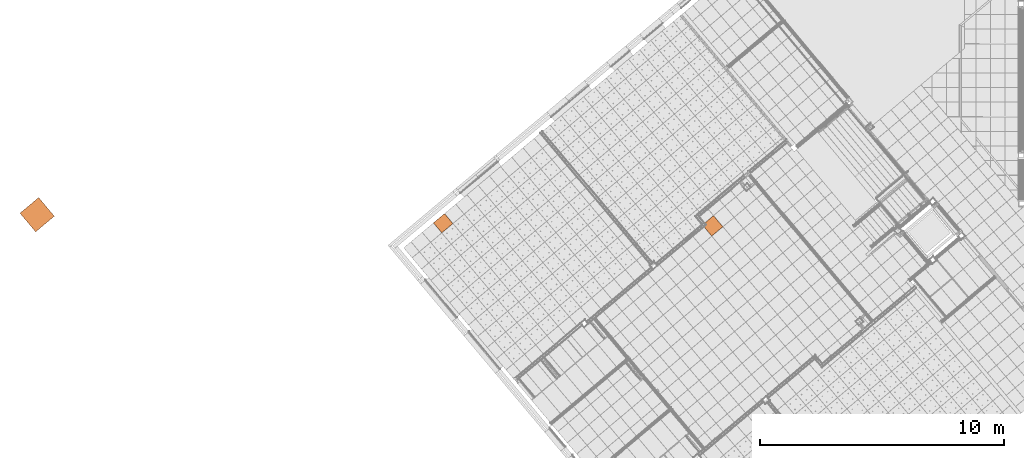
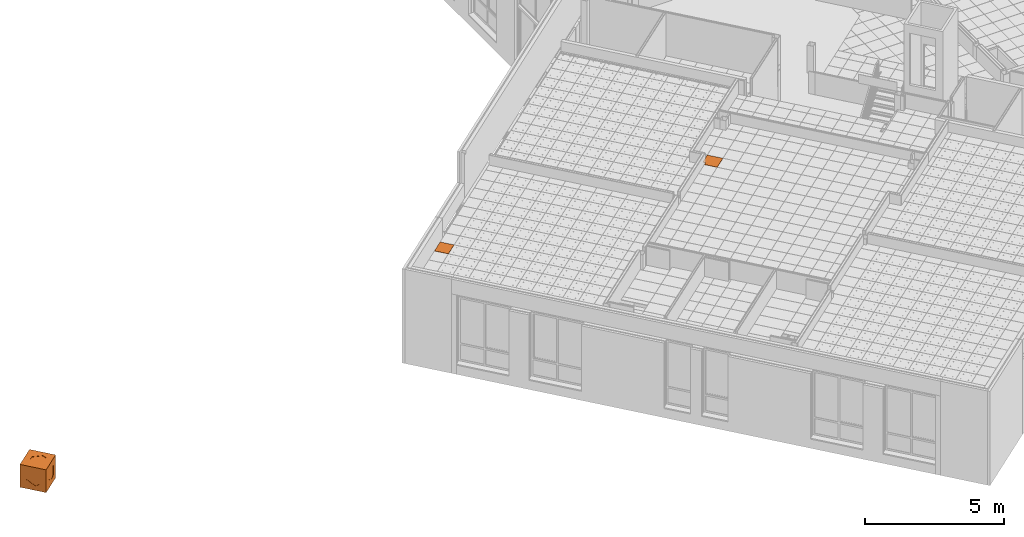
# One storey, part 313 of 338: 3 proxies, 2 elements without a shape of their own.
"""IFC2X3 building model written with IfcOpenShell, lengths in millimetres."""

from ifc_helpers import new_model, entity, si_unit, converted_unit, derived_unit, money_unit, direction, frame, origin_with_axes, place, context, subcontext, project, spatial, faceted_brep, material, type_object, element, aggregate, save


model = new_model("IFC2X3")

# Units and contexts
model_context = context("Model", 3, precision=0.01, world=origin_with_axes(), true_north=direction((0.0, 1.0)))
plan_context = context("Plan", 3, precision=0.01, world=origin_with_axes(), true_north=direction((0.0, 1.0)))
body_context = subcontext(model_context, "Body", "Model", "MODEL_VIEW")
ifc_project = project(units=[si_unit("LENGTHUNIT", "METRE", prefix="MILLI"), si_unit("AREAUNIT", "SQUARE_METRE"), si_unit("VOLUMEUNIT", "CUBIC_METRE"), converted_unit("PLANEANGLEUNIT", "DEGREE", entity("IfcPlaneAngleMeasure", 0.0174532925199), si_unit("PLANEANGLEUNIT", "RADIAN"), dimensions=[0, 0, 0, 0, 0, 0, 0]), money_unit("EUR"), converted_unit("TIMEUNIT", "Year", entity("IfcTimeMeasure", 31556926.0), si_unit("TIMEUNIT", "SECOND"), dimensions=[0, 0, 1, 0, 0, 0, 0]), si_unit("MASSUNIT", "GRAM", prefix="KILO"), si_unit("THERMODYNAMICTEMPERATUREUNIT", "DEGREE_CELSIUS"), si_unit("LUMINOUSINTENSITYUNIT", "LUMEN"), si_unit("ENERGYUNIT", "JOULE", prefix="MEGA"), derived_unit("THERMALCONDUCTANCEUNIT", [(si_unit("POWERUNIT", "WATT"), 1), (si_unit("LENGTHUNIT", "METRE"), -1), (si_unit("THERMODYNAMICTEMPERATUREUNIT", "KELVIN"), -1)]), derived_unit("SPECIFICHEATCAPACITYUNIT", [(si_unit("ENERGYUNIT", "JOULE"), 1), (si_unit("MASSUNIT", "GRAM", prefix="KILO"), -1), (si_unit("THERMODYNAMICTEMPERATUREUNIT", "KELVIN"), -1)]), derived_unit("MASSDENSITYUNIT", [(si_unit("MASSUNIT", "GRAM", prefix="KILO"), 1), (si_unit("VOLUMEUNIT", "CUBIC_METRE"), -1)])], contexts=[model_context, plan_context])

# Site, building, storey
site_placement = place(None, origin_with_axes())
site = spatial("IfcSite", under=ifc_project, at=site_placement, Name="Fortuinstraat Woensdrecht", CompositionType="ELEMENT")
building_placement = place(site_placement, origin_with_axes())
building = spatial("IfcBuilding", under=site, at=building_placement, Name="IKC Fortuna", CompositionType="ELEMENT")
storey_placement = place(building_placement, origin_with_axes())
storey = spatial("IfcBuildingStorey", under=building, at=storey_placement, Name="00 begane grond", CompositionType="ELEMENT", Elevation=0.0)

# Covering, proxy
covering_type = type_object("IfcCoveringType", Name="Curtain Wall Type", PredefinedType="CEILING")
covering_1_placement = place(storey_placement, frame((17937.1227498, -4186.27868692, 4660.0), z_axis=(0.0, 0.0, 1.0), x_axis=(1.0, 0.0, 0.0)))
covering_1 = element("IfcCovering", 1, at=covering_1_placement, inside=storey, type_object=covering_type, Name="45_Plafondafwerking_P02", PredefinedType="CEILING")
ifc_material_1 = material(Name="Gipsplaat")
building_element_proxy_type_1 = type_object("IfcBuildingElementProxyType", Name="Distinct Panel 471 x 105 x 20", PredefinedType="NOTDEFINED")
proxy_1_placement = place(covering_1_placement, frame((-5083.05934515, 5035.77442632, 0.0), z_axis=(0.0, 0.0, 1.0), x_axis=(1.0, 0.0, 0.0)))
proxy_1 = element("IfcBuildingElementProxy", 2, at=proxy_1_placement, type_object=building_element_proxy_type_1, material=ifc_material_1, Name="__Panel-D", context=body_context, shape_type="Brep", body=[
    faceted_brep([(122.107004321, 405.848986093, -10.0), (-234.672339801, 106.47543614, -10.0), (-234.672339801, 106.47543614, 9.99999999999), (122.107004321, 405.848986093, 9.99999999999), (504.565740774, -49.9473571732, -10.0), (48.7693975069, -432.406093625, -10.0), (-266.371359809, -56.8361631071, -10.0), (-167.35427266, 26.2489228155, -10.0), (-167.35427266, 26.2489228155, 9.99999999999), (-266.371359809, -56.8361631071, 9.99999999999), (48.7693975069, -432.406093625, 9.99999999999), (504.565740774, -49.9473571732, 9.99999999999)], [[[0, 1, 2, 3]], [[0, 4, 5, 6, 7, 1]], [[1, 7, 8, 2]], [[3, 2, 8, 9, 10, 11]], [[4, 0, 3, 11]], [[5, 4, 11, 10]], [[6, 5, 10, 9]], [[7, 6, 9, 8]]]),
])
aggregate(covering_1, [proxy_1])

covering_2_placement = place(storey_placement, frame((9775.85169731, -1002.28242867, 4660.0), z_axis=(0.0, 0.0, 1.0), x_axis=(1.0, 0.0, 0.0)))
covering_2 = element("IfcCovering", 3, at=covering_2_placement, inside=storey, type_object=covering_type, Name="45_Plafondafwerking_P01", PredefinedType="CEILING")
building_element_proxy_type_2 = type_object("IfcBuildingElementProxyType", Name="600 x 538 x 20", PredefinedType="NOTDEFINED")
proxy_2_placement = place(covering_2_placement, frame((-7899.3541505, 1946.60672487, 1.7674750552e-10), z_axis=(0.0, 0.0, 1.0), x_axis=(1.0, 0.0, 0.0)))
proxy_2 = element("IfcBuildingElementProxy", 4, at=proxy_2_placement, type_object=building_element_proxy_type_2, material=ifc_material_1, Name="__600x612 Rockfon Krios", context=body_context, shape_type="Brep", body=[
    faceted_brep([(56.7267099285, 395.223468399, -10.0), (-399.069623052, 12.7647308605, -10.0), (-399.069623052, 12.7647308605, 9.99999999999), (56.7267099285, 395.223468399, 9.99999999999), (399.069633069, -12.7647186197, -10.0), (-56.7267238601, -395.223468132, -10.0), (-56.7267238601, -395.223468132, 9.99999999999), (399.069633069, -12.7647186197, 9.99999999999)], [[[0, 1, 2, 3]], [[0, 4, 5, 1]], [[1, 5, 6, 2]], [[3, 2, 6, 7]], [[4, 0, 3, 7]], [[5, 4, 7, 6]]]),
])
aggregate(covering_2, [proxy_2])

# Proxy
ifc_material_2 = material(Name="ALG - BUITENAFWERKING")
building_element_proxy_type_3 = type_object("IfcBuildingElementProxyType", Name="Dankers Slimmer Bouwen Kubus", PredefinedType="NOTDEFINED")
proxy_3_placement = place(storey_placement, frame((-15497.1525809, 1355.82516776, 0.0), z_axis=(0.0, 0.0, 1.0), x_axis=(0.642787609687, -0.766044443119, 0.0)))
element("IfcBuildingElementProxy", 5, at=proxy_3_placement, inside=storey, type_object=building_element_proxy_type_3, material=ifc_material_2, Name="0_Building Element Proxy_nulpunt", context=body_context, shape_type="Brep", body=[
    faceted_brep([(585.710161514, 199.5, 980.0), (585.710161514, 399.5, 980.0), (758.915242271, 499.5, 980.0), (758.915242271, 299.5, 980.0), (585.710161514, 199.5, 990.0), (585.710161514, 399.5, 990.0), (758.915242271, 499.5, 990.0), (758.915242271, 299.5, 990.0)], [[[0, 1, 2, 3]], [[1, 0, 4, 5]], [[5, 6, 2, 1]], [[7, 3, 2, 6]], [[4, 0, 3, 7]], [[5, 4, 7, 6]]]),
    faceted_brep([(412.505080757, 299.5, 985.0), (412.505080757, 499.5, 985.0), (585.710161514, 399.5, 985.0), (412.505080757, 299.5, 990.0), (412.505080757, 499.5, 990.0), (585.710161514, 399.5, 990.0)], [[[0, 1, 2]], [[1, 0, 3, 4]], [[1, 4, 5, 2]], [[3, 0, 2, 5]], [[4, 3, 5]]]),
    faceted_brep([(0.0, 0.0, 0.0), (0.0, 0.0, 1000.0), (0.0, 1000.0, 1000.0), (0.0, 1000.0, 0.0), (0.0, 241.035109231, 699.5), (0.0, 241.035109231, 299.5), (0.0, 414.240189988, 199.5), (0.0, 760.650351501, 399.5), (0.0, 760.650351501, 599.5), (0.0, 414.240189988, 799.5), (1000.0, 0.0, 0.0), (1000.0, 0.0, 1000.0), (239.3, 0.0, 399.5), (239.3, 0.0, 599.5), (585.710161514, 0.0, 799.5), (758.915242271, 0.0, 699.5), (758.915242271, 0.0, 299.5), (585.710161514, 0.0, 199.5), (1000.0, 1000.0, 1000.0), (239.3, 399.5, 1000.0), (239.3, 599.5, 1000.0), (585.710161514, 799.5, 1000.0), (758.915242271, 699.5, 1000.0), (758.915242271, 299.5, 1000.0), (585.710161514, 199.5, 1000.0), (1000.0, 1000.0, 0.0), (241.084757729, 1000.0, 299.5), (414.289838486, 1000.0, 199.5), (760.7, 1000.0, 399.5), (760.7, 1000.0, 599.5), (414.289838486, 1000.0, 799.5), (241.084757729, 1000.0, 699.5), (20.0, 241.035109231, 299.5), (20.0, 241.035109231, 699.5), (20.0, 414.240189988, 199.5), (20.0, 760.650351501, 399.5), (20.0, 760.650351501, 599.5), (20.0, 414.240189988, 799.5), (1000.0, 585.710161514, 199.5), (1000.0, 239.3, 399.5), (1000.0, 239.3, 599.5), (1000.0, 585.710161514, 799.5), (1000.0, 758.915242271, 699.5), (1000.0, 758.915242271, 299.5), (239.3, 20.0, 399.5), (239.3, 20.0, 599.5), (584.42886338, 20.0, 798.760242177), (758.915242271, 20.0, 698.020484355), (758.915242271, 20.0, 299.5), (585.710161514, 20.0, 199.5), (239.3, 399.5, 980.0), (239.3, 599.5, 980.0), (585.710161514, 799.5, 980.0), (758.915242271, 699.5, 980.0), (758.915242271, 299.5, 980.0), (585.710161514, 199.5, 980.0), (241.084757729, 980.0, 299.5), (414.289838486, 980.0, 199.5), (760.7, 980.0, 399.5), (760.7, 980.0, 599.5), (414.289838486, 980.0, 799.5), (241.084757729, 980.0, 699.5), (980.0, 585.710161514, 199.5), (980.0, 239.3, 399.5), (980.0, 239.3, 599.5), (980.0, 585.710161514, 799.5), (980.0, 758.915242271, 699.5), (980.0, 758.915242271, 299.5)], [[[0, 1, 2, 3], [4, 5, 6, 7, 8, 9]], [[1, 0, 10, 11], [12, 13, 14, 15, 16, 17]], [[2, 1, 11, 18], [19, 20, 21, 22, 23, 24]], [[3, 2, 18, 25], [26, 27, 28, 29, 30, 31]], [[0, 3, 25, 10]], [[32, 5, 4, 33]], [[5, 32, 34, 6]], [[7, 6, 34, 35]], [[8, 7, 35, 36]], [[37, 9, 8, 36]], [[33, 4, 9, 37]], [[11, 10, 25, 18], [38, 39, 40, 41, 42, 43]], [[13, 12, 44, 45]], [[14, 13, 45, 46]], [[15, 14, 46, 47]], [[48, 16, 15, 47]], [[49, 17, 16, 48]], [[12, 17, 49, 44]], [[20, 19, 50, 51]], [[20, 51, 52, 21]], [[53, 22, 21, 52]], [[53, 54, 23, 22]], [[54, 55, 24, 23]], [[19, 24, 55, 50]], [[56, 57, 27, 26]], [[27, 57, 58, 28]], [[29, 28, 58, 59]], [[60, 30, 29, 59]], [[60, 61, 31, 30]], [[61, 56, 26, 31]], [[32, 33, 37, 36, 35, 34]], [[39, 38, 62, 63]], [[40, 39, 63, 64]], [[40, 64, 65, 41]], [[66, 42, 41, 65]], [[67, 43, 42, 66]], [[62, 38, 43, 67]], [[44, 49, 48, 47, 46, 45]], [[50, 55, 54, 53, 52, 51]], [[56, 61, 60, 59, 58, 57]], [[64, 63, 62, 67, 66, 65]]]),
    faceted_brep([(585.710161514, 399.5, 985.0), (585.710161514, 599.5, 985.0), (585.710161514, 599.5, 980.0), (585.710161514, 399.5, 980.0), (758.915242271, 499.5, 985.0), (758.915242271, 499.5, 980.0)], [[[0, 1, 2, 3]], [[1, 0, 4]], [[5, 2, 1, 4]], [[3, 2, 5]], [[0, 3, 5, 4]]]),
    faceted_brep([(585.710161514, 599.5, 990.0), (758.915242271, 499.5, 990.0), (758.915242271, 699.5, 990.0), (585.710161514, 599.5, 980.0), (758.915242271, 499.5, 980.0), (758.915242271, 699.5, 980.0)], [[[0, 1, 2]], [[3, 4, 1, 0]], [[1, 4, 5, 2]], [[3, 0, 2, 5]], [[4, 3, 5]]]),
    faceted_brep([(412.505080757, 299.5, 980.0), (412.505080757, 499.5, 980.0), (585.710161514, 399.5, 980.0), (412.505080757, 299.5, 985.0), (412.505080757, 499.5, 985.0), (585.710161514, 399.5, 985.0)], [[[0, 1, 2]], [[1, 0, 3, 4]], [[1, 4, 5, 2]], [[3, 0, 2, 5]], [[4, 3, 5]]]),
    faceted_brep([(412.505080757, 499.5, 980.0), (412.505080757, 699.5, 980.0), (585.710161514, 599.5, 980.0), (412.505080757, 499.5, 985.0), (412.505080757, 699.5, 985.0), (585.710161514, 599.5, 985.0)], [[[0, 1, 2]], [[3, 4, 1, 0]], [[1, 4, 5, 2]], [[5, 3, 0, 2]], [[4, 3, 5]]]),
    faceted_brep([(412.505080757, 499.5, 985.0), (412.505080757, 699.5, 985.0), (585.710161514, 599.5, 985.0), (412.505080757, 499.5, 990.0), (412.505080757, 699.5, 990.0), (585.710161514, 599.5, 990.0)], [[[0, 1, 2]], [[3, 4, 1, 0]], [[1, 4, 5, 2]], [[5, 3, 0, 2]], [[4, 3, 5]]]),
    faceted_brep([(412.505080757, 699.5, 990.0), (585.710161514, 599.5, 990.0), (758.915242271, 699.5, 990.0), (585.710161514, 799.5, 990.0), (412.505080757, 699.5, 980.0), (585.710161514, 599.5, 980.0), (758.915242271, 699.5, 980.0), (585.710161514, 799.5, 980.0)], [[[0, 1, 2, 3]], [[1, 0, 4, 5]], [[1, 5, 6, 2]], [[3, 2, 6, 7]], [[4, 0, 3, 7]], [[5, 4, 7, 6]]]),
    faceted_brep([(412.505080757, 299.5, 990.0), (585.710161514, 199.5, 990.0), (585.710161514, 399.5, 990.0), (412.505080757, 299.5, 980.0), (585.710161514, 199.5, 980.0), (585.710161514, 399.5, 980.0)], [[[0, 1, 2]], [[0, 3, 4, 1]], [[1, 4, 5, 2]], [[3, 0, 2]], [[3, 5, 4]], [[5, 3, 2]]]),
    faceted_brep([(239.3, 399.5, 980.0), (239.3, 599.5, 980.0), (412.505080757, 499.5, 980.0), (412.505080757, 299.5, 980.0), (239.3, 399.5, 990.0), (239.3, 599.5, 990.0), (412.505080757, 499.5, 990.0), (412.505080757, 299.5, 990.0)], [[[0, 1, 2, 3]], [[1, 0, 4, 5]], [[5, 6, 2, 1]], [[7, 3, 2, 6]], [[7, 4, 0, 3]], [[5, 4, 7, 6]]]),
    faceted_brep([(585.710161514, 399.5, 990.0), (585.710161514, 599.5, 990.0), (585.710161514, 599.5, 985.0), (585.710161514, 399.5, 985.0), (758.915242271, 499.5, 990.0), (758.915242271, 499.5, 985.0)], [[[0, 1, 2, 3]], [[1, 0, 4]], [[5, 2, 1, 4]], [[3, 2, 5]], [[0, 3, 5, 4]]]),
    faceted_brep([(412.505080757, 499.5, 990.0), (585.710161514, 399.5, 990.0), (585.710161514, 599.5, 990.0), (412.505080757, 499.5, 985.0), (585.710161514, 399.5, 985.0), (585.710161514, 599.5, 985.0)], [[[0, 1, 2]], [[0, 3, 4, 1]], [[1, 4, 5, 2]], [[5, 3, 0, 2]], [[3, 5, 4]]]),
    faceted_brep([(239.3, 599.5, 990.0), (412.505080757, 499.5, 990.0), (412.505080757, 699.5, 990.0), (239.3, 599.5, 980.0), (412.505080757, 499.5, 980.0), (412.505080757, 699.5, 980.0)], [[[0, 1, 2]], [[1, 0, 3, 4]], [[1, 4, 5, 2]], [[3, 0, 2, 5]], [[4, 3, 5]]]),
    faceted_brep([(412.505080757, 499.5, 985.0), (585.710161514, 399.5, 985.0), (585.710161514, 599.5, 985.0), (412.505080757, 499.5, 980.0), (585.710161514, 399.5, 980.0), (585.710161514, 599.5, 980.0)], [[[0, 1, 2]], [[0, 3, 4, 1]], [[1, 4, 5, 2]], [[5, 3, 0, 2]], [[3, 5, 4]]]),
    faceted_brep([(585.710161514, 15.0, 399.5), (585.710161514, 15.0, 599.5), (585.710161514, 20.0, 599.5), (585.710161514, 20.0, 399.5), (758.915242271, 15.0, 499.5), (758.915242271, 20.0, 499.5)], [[[0, 1, 2, 3]], [[1, 0, 4]], [[5, 2, 1, 4]], [[3, 2, 5]], [[0, 3, 5, 4]]]),
    faceted_brep([(10.0, 760.650351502, 599.5), (10.0, 587.445270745, 499.5), (10.0, 587.445270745, 699.5), (20.0, 760.650351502, 599.5), (20.0, 587.445270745, 499.5), (20.0, 587.445270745, 699.5)], [[[0, 1, 2]], [[1, 0, 3, 4]], [[1, 4, 5, 2]], [[3, 0, 2, 5]], [[4, 3, 5]]]),
    faceted_brep([(412.505080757, 20.0, 299.5), (412.505080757, 20.0, 499.5), (585.710161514, 20.0, 399.5), (412.505080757, 15.0, 299.5), (412.505080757, 15.0, 499.5), (585.710161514, 15.0, 399.5)], [[[0, 1, 2]], [[1, 0, 3, 4]], [[1, 4, 5, 2]], [[3, 0, 2, 5]], [[4, 3, 5]]]),
    faceted_brep([(412.505080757, 10.0, 499.5), (585.710161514, 10.0, 399.5), (585.710161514, 10.0, 599.5), (412.505080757, 15.0, 499.5), (585.710161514, 15.0, 399.5), (585.710161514, 15.0, 599.5)], [[[0, 1, 2]], [[0, 3, 4, 1]], [[1, 4, 5, 2]], [[5, 3, 0, 2]], [[3, 5, 4]]]),
    faceted_brep([(412.505080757, 20.0, 499.5), (412.505080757, 20.0, 699.5), (585.710161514, 20.0, 599.5), (412.505080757, 15.0, 499.5), (412.505080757, 15.0, 699.5), (585.710161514, 15.0, 599.5)], [[[0, 1, 2]], [[3, 4, 1, 0]], [[1, 4, 5, 2]], [[5, 3, 0, 2]], [[4, 3, 5]]]),
    faceted_brep([(585.710161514, 10.0, 399.5), (585.710161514, 10.0, 599.5), (585.710161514, 15.0, 599.5), (585.710161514, 15.0, 399.5), (758.915242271, 10.0, 499.5), (758.915242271, 15.0, 499.5)], [[[0, 1, 2, 3]], [[1, 0, 4]], [[5, 2, 1, 4]], [[3, 2, 5]], [[0, 3, 5, 4]]]),
    faceted_brep([(412.505080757, 10.0, 299.5), (585.710161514, 10.0, 199.5), (585.710161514, 10.0, 399.5), (412.505080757, 20.0, 299.5), (585.710161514, 20.0, 199.5), (585.710161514, 20.0, 399.5)], [[[0, 1, 2]], [[0, 3, 4, 1]], [[1, 4, 5, 2]], [[3, 0, 2]], [[3, 5, 4]], [[5, 3, 2]]]),
    faceted_brep([(585.710161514, 20.0, 199.5), (585.710161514, 20.0, 399.5), (758.915242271, 20.0, 499.5), (758.915242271, 20.0, 299.5), (585.710161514, 10.0, 199.5), (585.710161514, 10.0, 399.5), (758.915242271, 10.0, 499.5), (758.915242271, 10.0, 299.5)], [[[0, 1, 2, 3]], [[1, 0, 4, 5]], [[5, 6, 2, 1]], [[7, 3, 2, 6]], [[4, 0, 3, 7]], [[5, 4, 7, 6]]]),
    faceted_brep([(239.3, 20.0, 399.5), (239.3, 20.0, 599.5), (412.505080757, 20.0, 499.5), (412.505080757, 20.0, 299.5), (239.3, 10.0, 399.5), (239.3, 10.0, 599.5), (412.505080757, 10.0, 499.5), (412.505080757, 10.0, 299.5)], [[[0, 1, 2, 3]], [[1, 0, 4, 5]], [[5, 6, 2, 1]], [[7, 3, 2, 6]], [[7, 4, 0, 3]], [[5, 4, 7, 6]]]),
    faceted_brep([(412.505080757, 15.0, 299.5), (412.505080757, 15.0, 499.5), (585.710161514, 15.0, 399.5), (412.505080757, 10.0, 299.5), (412.505080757, 10.0, 499.5), (585.710161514, 10.0, 399.5)], [[[0, 1, 2]], [[1, 0, 3, 4]], [[1, 4, 5, 2]], [[3, 0, 2, 5]], [[4, 3, 5]]]),
    faceted_brep([(239.3, 10.0, 599.5), (412.505080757, 10.0, 499.5), (412.505080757, 10.0, 699.5), (239.3, 20.0, 599.5), (412.505080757, 20.0, 499.5), (412.505080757, 20.0, 699.5)], [[[0, 1, 2]], [[1, 0, 3, 4]], [[1, 4, 5, 2]], [[3, 0, 2, 5]], [[4, 3, 5]]]),
    faceted_brep([(412.505080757, 15.0, 499.5), (585.710161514, 15.0, 399.5), (585.710161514, 15.0, 599.5), (412.505080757, 20.0, 499.5), (585.710161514, 20.0, 399.5), (585.710161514, 20.0, 599.5)], [[[0, 1, 2]], [[0, 3, 4, 1]], [[1, 4, 5, 2]], [[5, 3, 0, 2]], [[3, 5, 4]]]),
    faceted_brep([(412.505080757, 10.0, 699.5), (585.710161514, 10.0, 599.5), (758.915242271, 10.0, 699.5), (585.710161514, 10.0, 799.5), (412.505080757, 20.0, 699.5), (585.710161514, 20.0, 599.5), (758.915242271, 20.0, 699.5), (585.710161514, 20.0, 799.5)], [[[0, 1, 2, 3]], [[1, 0, 4, 5]], [[1, 5, 6, 2]], [[3, 2, 6, 7]], [[4, 0, 3, 7]], [[5, 4, 7, 6]]]),
    faceted_brep([(585.710161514, 10.0, 599.5), (758.915242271, 10.0, 499.5), (758.915242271, 10.0, 699.5), (585.710161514, 20.0, 599.5), (758.915242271, 20.0, 499.5), (758.915242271, 20.0, 699.5)], [[[0, 1, 2]], [[3, 4, 1, 0]], [[1, 4, 5, 2]], [[3, 0, 2, 5]], [[4, 3, 5]]]),
    faceted_brep([(15.0, 587.445270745, 499.5), (15.0, 414.240189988, 399.5), (15.0, 414.240189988, 599.5), (20.0, 587.445270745, 499.5), (20.0, 414.240189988, 399.5), (20.0, 414.240189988, 599.5)], [[[0, 1, 2]], [[0, 3, 4, 1]], [[1, 4, 5, 2]], [[5, 3, 0, 2]], [[3, 5, 4]]]),
    faceted_brep([(985.0, 585.710161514, 399.5), (985.0, 585.710161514, 599.5), (980.0, 585.710161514, 599.5), (980.0, 585.710161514, 399.5), (985.0, 758.915242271, 499.5), (980.0, 758.915242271, 499.5)], [[[0, 1, 2, 3]], [[1, 0, 4]], [[5, 2, 1, 4]], [[3, 2, 5]], [[0, 3, 5, 4]]]),
    faceted_brep([(985.0, 412.505080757, 499.5), (985.0, 412.505080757, 699.5), (985.0, 585.710161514, 599.5), (990.0, 412.505080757, 499.5), (990.0, 412.505080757, 699.5), (990.0, 585.710161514, 599.5)], [[[0, 1, 2]], [[3, 4, 1, 0]], [[1, 4, 5, 2]], [[5, 3, 0, 2]], [[4, 3, 5]]]),
    faceted_brep([(980.0, 412.505080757, 299.5), (980.0, 412.505080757, 499.5), (980.0, 585.710161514, 399.5), (985.0, 412.505080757, 299.5), (985.0, 412.505080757, 499.5), (985.0, 585.710161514, 399.5)], [[[0, 1, 2]], [[1, 0, 3, 4]], [[1, 4, 5, 2]], [[3, 0, 2, 5]], [[4, 3, 5]]]),
    faceted_brep([(990.0, 412.505080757, 499.5), (990.0, 585.710161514, 399.5), (990.0, 585.710161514, 599.5), (985.0, 412.505080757, 499.5), (985.0, 585.710161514, 399.5), (985.0, 585.710161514, 599.5)], [[[0, 1, 2]], [[0, 3, 4, 1]], [[1, 4, 5, 2]], [[5, 3, 0, 2]], [[3, 5, 4]]]),
    faceted_brep([(980.0, 412.505080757, 499.5), (980.0, 412.505080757, 699.5), (980.0, 585.710161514, 599.5), (985.0, 412.505080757, 499.5), (985.0, 412.505080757, 699.5), (985.0, 585.710161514, 599.5)], [[[0, 1, 2]], [[3, 4, 1, 0]], [[1, 4, 5, 2]], [[5, 3, 0, 2]], [[4, 3, 5]]]),
    faceted_brep([(990.0, 585.710161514, 399.5), (990.0, 585.710161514, 599.5), (985.0, 585.710161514, 599.5), (985.0, 585.710161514, 399.5), (990.0, 758.915242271, 499.5), (985.0, 758.915242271, 499.5)], [[[0, 1, 2, 3]], [[1, 0, 4]], [[5, 2, 1, 4]], [[3, 2, 5]], [[0, 3, 5, 4]]]),
    faceted_brep([(990.0, 412.505080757, 299.5), (990.0, 585.710161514, 199.5), (990.0, 585.710161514, 399.5), (980.0, 412.505080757, 299.5), (980.0, 585.710161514, 199.5), (980.0, 585.710161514, 399.5)], [[[0, 1, 2]], [[0, 3, 4, 1]], [[1, 4, 5, 2]], [[3, 0, 2]], [[3, 5, 4]], [[5, 3, 2]]]),
    faceted_brep([(980.0, 585.710161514, 199.5), (980.0, 585.710161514, 399.5), (980.0, 758.915242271, 499.5), (980.0, 758.915242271, 299.5), (990.0, 585.710161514, 199.5), (990.0, 585.710161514, 399.5), (990.0, 758.915242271, 499.5), (990.0, 758.915242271, 299.5)], [[[0, 1, 2, 3]], [[1, 0, 4, 5]], [[5, 6, 2, 1]], [[7, 3, 2, 6]], [[4, 0, 3, 7]], [[5, 4, 7, 6]]]),
    faceted_brep([(980.0, 239.3, 399.5), (980.0, 239.3, 599.5), (980.0, 412.505080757, 499.5), (980.0, 412.505080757, 299.5), (990.0, 239.3, 399.5), (990.0, 239.3, 599.5), (990.0, 412.505080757, 499.5), (990.0, 412.505080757, 299.5)], [[[0, 1, 2, 3]], [[1, 0, 4, 5]], [[5, 6, 2, 1]], [[7, 3, 2, 6]], [[7, 4, 0, 3]], [[5, 4, 7, 6]]]),
    faceted_brep([(985.0, 412.505080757, 299.5), (985.0, 412.505080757, 499.5), (985.0, 585.710161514, 399.5), (990.0, 412.505080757, 299.5), (990.0, 412.505080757, 499.5), (990.0, 585.710161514, 399.5)], [[[0, 1, 2]], [[1, 0, 3, 4]], [[1, 4, 5, 2]], [[3, 0, 2, 5]], [[4, 3, 5]]]),
    faceted_brep([(990.0, 239.3, 599.5), (990.0, 412.505080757, 499.5), (990.0, 412.505080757, 699.5), (980.0, 239.3, 599.5), (980.0, 412.505080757, 499.5), (980.0, 412.505080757, 699.5)], [[[0, 1, 2]], [[1, 0, 3, 4]], [[1, 4, 5, 2]], [[3, 0, 2, 5]], [[4, 3, 5]]]),
    faceted_brep([(985.0, 412.505080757, 499.5), (985.0, 585.710161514, 399.5), (985.0, 585.710161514, 599.5), (980.0, 412.505080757, 499.5), (980.0, 585.710161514, 399.5), (980.0, 585.710161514, 599.5)], [[[0, 1, 2]], [[0, 3, 4, 1]], [[1, 4, 5, 2]], [[5, 3, 0, 2]], [[3, 5, 4]]]),
    faceted_brep([(990.0, 412.505080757, 699.5), (990.0, 585.710161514, 599.5), (990.0, 758.915242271, 699.5), (990.0, 585.710161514, 799.5), (980.0, 412.505080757, 699.5), (980.0, 585.710161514, 599.5), (980.0, 758.915242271, 699.5), (980.0, 585.710161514, 799.5)], [[[0, 1, 2, 3]], [[1, 0, 4, 5]], [[1, 5, 6, 2]], [[3, 2, 6, 7]], [[4, 0, 3, 7]], [[5, 4, 7, 6]]]),
    faceted_brep([(990.0, 585.710161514, 599.5), (990.0, 758.915242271, 499.5), (990.0, 758.915242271, 699.5), (980.0, 585.710161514, 599.5), (980.0, 758.915242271, 499.5), (980.0, 758.915242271, 699.5)], [[[0, 1, 2]], [[3, 4, 1, 0]], [[1, 4, 5, 2]], [[3, 0, 2, 5]], [[4, 3, 5]]]),
    faceted_brep([(10.0, 414.240189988, 599.5), (10.0, 241.035109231, 499.5), (10.0, 241.035109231, 699.5), (20.0, 414.240189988, 599.5), (20.0, 241.035109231, 499.5), (20.0, 241.035109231, 699.5)], [[[0, 1, 2]], [[3, 4, 1, 0]], [[1, 4, 5, 2]], [[3, 0, 2, 5]], [[4, 3, 5]]]),
    faceted_brep([(414.289838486, 985.0, 399.5), (414.289838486, 985.0, 599.5), (414.289838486, 980.0, 599.5), (414.289838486, 980.0, 399.5), (241.084757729, 985.0, 499.5), (241.084757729, 980.0, 499.5)], [[[0, 1, 2, 3]], [[1, 0, 4]], [[5, 2, 1, 4]], [[3, 2, 5]], [[0, 3, 5, 4]]]),
    faceted_brep([(587.494919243, 985.0, 499.5), (587.494919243, 985.0, 699.5), (414.289838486, 985.0, 599.5), (587.494919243, 990.0, 499.5), (587.494919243, 990.0, 699.5), (414.289838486, 990.0, 599.5)], [[[0, 1, 2]], [[3, 4, 1, 0]], [[1, 4, 5, 2]], [[5, 3, 0, 2]], [[4, 3, 5]]]),
    faceted_brep([(587.494919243, 980.0, 299.5), (587.494919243, 980.0, 499.5), (414.289838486, 980.0, 399.5), (587.494919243, 985.0, 299.5), (587.494919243, 985.0, 499.5), (414.289838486, 985.0, 399.5)], [[[0, 1, 2]], [[1, 0, 3, 4]], [[1, 4, 5, 2]], [[3, 0, 2, 5]], [[4, 3, 5]]]),
    faceted_brep([(587.494919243, 990.0, 499.5), (414.289838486, 990.0, 399.5), (414.289838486, 990.0, 599.5), (587.494919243, 985.0, 499.5), (414.289838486, 985.0, 399.5), (414.289838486, 985.0, 599.5)], [[[0, 1, 2]], [[0, 3, 4, 1]], [[1, 4, 5, 2]], [[5, 3, 0, 2]], [[3, 5, 4]]]),
    faceted_brep([(587.494919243, 980.0, 499.5), (587.494919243, 980.0, 699.5), (414.289838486, 980.0, 599.5), (587.494919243, 985.0, 499.5), (587.494919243, 985.0, 699.5), (414.289838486, 985.0, 599.5)], [[[0, 1, 2]], [[3, 4, 1, 0]], [[1, 4, 5, 2]], [[5, 3, 0, 2]], [[4, 3, 5]]]),
    faceted_brep([(414.289838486, 990.0, 399.5), (414.289838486, 990.0, 599.5), (414.289838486, 985.0, 599.5), (414.289838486, 985.0, 399.5), (241.084757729, 990.0, 499.5), (241.084757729, 985.0, 499.5)], [[[0, 1, 2, 3]], [[1, 0, 4]], [[5, 2, 1, 4]], [[3, 2, 5]], [[0, 3, 5, 4]]]),
    faceted_brep([(587.494919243, 990.0, 299.5), (414.289838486, 990.0, 199.5), (414.289838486, 990.0, 399.5), (587.494919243, 980.0, 299.5), (414.289838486, 980.0, 199.5), (414.289838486, 980.0, 399.5)], [[[0, 1, 2]], [[0, 3, 4, 1]], [[1, 4, 5, 2]], [[3, 0, 2]], [[3, 5, 4]], [[5, 3, 2]]]),
    faceted_brep([(414.289838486, 980.0, 199.5), (414.289838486, 980.0, 399.5), (241.084757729, 980.0, 499.5), (241.084757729, 980.0, 299.5), (414.289838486, 990.0, 199.5), (414.289838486, 990.0, 399.5), (241.084757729, 990.0, 499.5), (241.084757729, 990.0, 299.5)], [[[0, 1, 2, 3]], [[1, 0, 4, 5]], [[5, 6, 2, 1]], [[7, 3, 2, 6]], [[4, 0, 3, 7]], [[5, 4, 7, 6]]]),
    faceted_brep([(760.7, 980.0, 399.5), (760.7, 980.0, 599.5), (587.494919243, 980.0, 499.5), (587.494919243, 980.0, 299.5), (760.7, 990.0, 399.5), (760.7, 990.0, 599.5), (587.494919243, 990.0, 499.5), (587.494919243, 990.0, 299.5)], [[[0, 1, 2, 3]], [[1, 0, 4, 5]], [[5, 6, 2, 1]], [[7, 3, 2, 6]], [[7, 4, 0, 3]], [[5, 4, 7, 6]]]),
    faceted_brep([(587.494919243, 985.0, 299.5), (587.494919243, 985.0, 499.5), (414.289838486, 985.0, 399.5), (587.494919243, 990.0, 299.5), (587.494919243, 990.0, 499.5), (414.289838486, 990.0, 399.5)], [[[0, 1, 2]], [[1, 0, 3, 4]], [[1, 4, 5, 2]], [[3, 0, 2, 5]], [[4, 3, 5]]]),
    faceted_brep([(760.7, 990.0, 599.5), (587.494919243, 990.0, 499.5), (587.494919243, 990.0, 699.5), (760.7, 980.0, 599.5), (587.494919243, 980.0, 499.5), (587.494919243, 980.0, 699.5)], [[[0, 1, 2]], [[1, 0, 3, 4]], [[1, 4, 5, 2]], [[3, 0, 2, 5]], [[4, 3, 5]]]),
    faceted_brep([(587.494919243, 985.0, 499.5), (414.289838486, 985.0, 399.5), (414.289838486, 985.0, 599.5), (587.494919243, 980.0, 499.5), (414.289838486, 980.0, 399.5), (414.289838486, 980.0, 599.5)], [[[0, 1, 2]], [[0, 3, 4, 1]], [[1, 4, 5, 2]], [[5, 3, 0, 2]], [[3, 5, 4]]]),
    faceted_brep([(587.494919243, 990.0, 699.5), (414.289838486, 990.0, 599.5), (241.084757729, 990.0, 699.5), (414.289838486, 990.0, 799.5), (587.494919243, 980.0, 699.5), (414.289838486, 980.0, 599.5), (241.084757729, 980.0, 699.5), (414.289838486, 980.0, 799.5)], [[[0, 1, 2, 3]], [[1, 0, 4, 5]], [[1, 5, 6, 2]], [[3, 2, 6, 7]], [[4, 0, 3, 7]], [[5, 4, 7, 6]]]),
    faceted_brep([(414.289838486, 990.0, 599.5), (241.084757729, 990.0, 499.5), (241.084757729, 990.0, 699.5), (414.289838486, 980.0, 599.5), (241.084757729, 980.0, 499.5), (241.084757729, 980.0, 699.5)], [[[0, 1, 2]], [[3, 4, 1, 0]], [[1, 4, 5, 2]], [[3, 0, 2, 5]], [[4, 3, 5]]]),
    faceted_brep([(10.0, 587.445270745, 699.5), (10.0, 414.240189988, 599.5), (10.0, 241.035109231, 699.5), (10.0, 414.240189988, 799.5), (20.0, 587.445270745, 699.5), (20.0, 414.240189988, 599.5), (20.0, 241.035109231, 699.5), (20.0, 414.240189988, 799.5)], [[[0, 1, 2, 3]], [[1, 0, 4, 5]], [[1, 5, 6, 2]], [[3, 2, 6, 7]], [[4, 0, 3, 7]], [[5, 4, 7, 6]]]),
    faceted_brep([(15.0, 414.240189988, 399.5), (15.0, 414.240189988, 599.5), (20.0, 414.240189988, 599.5), (20.0, 414.240189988, 399.5), (15.0, 241.035109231, 499.5), (20.0, 241.035109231, 499.5)], [[[0, 1, 2, 3]], [[1, 0, 4]], [[5, 2, 1, 4]], [[3, 2, 5]], [[0, 3, 5, 4]]]),
    faceted_brep([(15.0, 587.445270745, 499.5), (15.0, 587.445270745, 699.5), (15.0, 414.240189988, 599.5), (10.0, 587.445270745, 499.5), (10.0, 587.445270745, 699.5), (10.0, 414.240189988, 599.5)], [[[0, 1, 2]], [[3, 4, 1, 0]], [[1, 4, 5, 2]], [[5, 3, 0, 2]], [[4, 3, 5]]]),
    faceted_brep([(20.0, 587.445270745, 299.5), (20.0, 587.445270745, 499.5), (20.0, 414.240189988, 399.5), (15.0, 587.445270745, 299.5), (15.0, 587.445270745, 499.5), (15.0, 414.240189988, 399.5)], [[[0, 1, 2]], [[1, 0, 3, 4]], [[1, 4, 5, 2]], [[3, 0, 2, 5]], [[4, 3, 5]]]),
    faceted_brep([(10.0, 587.445270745, 499.5), (10.0, 414.240189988, 399.5), (10.0, 414.240189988, 599.5), (15.0, 587.445270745, 499.5), (15.0, 414.240189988, 399.5), (15.0, 414.240189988, 599.5)], [[[0, 1, 2]], [[0, 3, 4, 1]], [[1, 4, 5, 2]], [[5, 3, 0, 2]], [[3, 5, 4]]]),
    faceted_brep([(20.0, 587.445270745, 499.5), (20.0, 587.445270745, 699.5), (20.0, 414.240189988, 599.5), (15.0, 587.445270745, 499.5), (15.0, 587.445270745, 699.5), (15.0, 414.240189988, 599.5)], [[[0, 1, 2]], [[3, 4, 1, 0]], [[1, 4, 5, 2]], [[5, 3, 0, 2]], [[4, 3, 5]]]),
    faceted_brep([(10.0, 414.240189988, 399.5), (10.0, 414.240189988, 599.5), (15.0, 414.240189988, 599.5), (15.0, 414.240189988, 399.5), (10.0, 241.035109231, 499.5), (15.0, 241.035109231, 499.5)], [[[0, 1, 2, 3]], [[1, 0, 4]], [[5, 2, 1, 4]], [[3, 2, 5]], [[0, 3, 5, 4]]]),
    faceted_brep([(10.0, 587.445270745, 299.5), (10.0, 414.240189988, 199.5), (10.0, 414.240189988, 399.5), (20.0, 587.445270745, 299.5), (20.0, 414.240189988, 199.5), (20.0, 414.240189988, 399.5)], [[[0, 1, 2]], [[0, 3, 4, 1]], [[1, 4, 5, 2]], [[3, 0, 2]], [[3, 5, 4]], [[5, 3, 2]]]),
    faceted_brep([(20.0, 414.240189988, 199.5), (20.0, 414.240189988, 399.5), (20.0, 241.035109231, 499.5), (20.0, 241.035109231, 299.5), (10.0, 414.240189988, 199.5), (10.0, 414.240189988, 399.5), (10.0, 241.035109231, 499.5), (10.0, 241.035109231, 299.5)], [[[0, 1, 2, 3]], [[1, 0, 4, 5]], [[5, 6, 2, 1]], [[7, 3, 2, 6]], [[4, 0, 3, 7]], [[5, 4, 7, 6]]]),
    faceted_brep([(20.0, 760.650351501, 399.5), (20.0, 760.650351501, 599.5), (20.0, 587.445270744, 499.5), (20.0, 587.445270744, 299.5), (10.0, 760.650351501, 399.5), (10.0, 760.650351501, 599.5), (10.0, 587.445270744, 499.5), (10.0, 587.445270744, 299.5)], [[[0, 1, 2, 3]], [[1, 0, 4, 5]], [[5, 6, 2, 1]], [[7, 3, 2, 6]], [[7, 4, 0, 3]], [[5, 4, 7, 6]]]),
    faceted_brep([(15.0, 587.445270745, 299.5), (15.0, 587.445270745, 499.5), (15.0, 414.240189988, 399.5), (10.0, 587.445270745, 299.5), (10.0, 587.445270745, 499.5), (10.0, 414.240189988, 399.5)], [[[0, 1, 2]], [[1, 0, 3, 4]], [[1, 4, 5, 2]], [[3, 0, 2, 5]], [[4, 3, 5]]]),
    faceted_brep([(412.505080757, 15.0, 499.5), (412.505080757, 15.0, 699.5), (585.710161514, 15.0, 599.5), (412.505080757, 10.0, 499.5), (412.505080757, 10.0, 699.5), (585.710161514, 10.0, 599.5)], [[[0, 1, 2]], [[3, 4, 1, 0]], [[1, 4, 5, 2]], [[5, 3, 0, 2]], [[4, 3, 5]]]),
])

save(model, "model.ifc")
